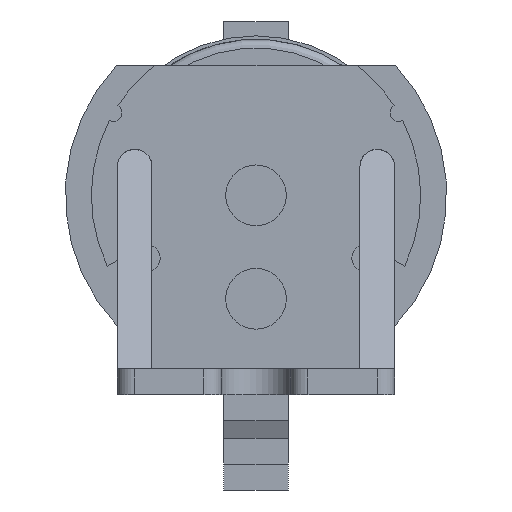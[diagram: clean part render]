
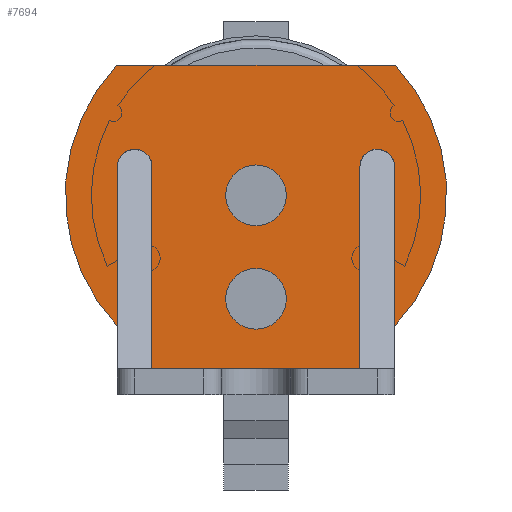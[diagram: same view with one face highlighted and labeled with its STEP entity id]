
A CAD part, left-side view. The second image highlights one B-rep face of the part: STEP entity #7694.
In plain terms, the highlighted planar face has unit normal (-1, 0, 0).
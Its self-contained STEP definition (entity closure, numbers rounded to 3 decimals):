
#5727=DIRECTION('',(0.,0.,-1.));
#5728=VECTOR('',#5727,9.211);
#5729=CARTESIAN_POINT('',(4.,8.,13.161));
#5730=LINE('',#5729,#5728);
#5739=DIRECTION('',(0.,1.,0.));
#5740=VECTOR('',#5739,12.);
#5741=CARTESIAN_POINT('',(4.,-6.,1.5));
#5742=LINE('',#5741,#5740);
#5792=CARTESIAN_POINT('',(4.,7.,13.161));
#5793=DIRECTION('',(1.,0.,0.));
#5794=DIRECTION('',(0.,1.,0.));
#5795=AXIS2_PLACEMENT_3D('',#5792,#5793,#5794);
#5797=DIRECTION('',(0.,1.,0.));
#5798=VECTOR('',#5797,16.093);
#5799=CARTESIAN_POINT('',(4.,-8.047,19.));
#5800=LINE('',#5799,#5798);
#5801=CARTESIAN_POINT('',(4.,0.,11.5));
#5802=DIRECTION('',(-1.,0.,0.));
#5803=DIRECTION('',(0.,-0.727,-0.686));
#5804=AXIS2_PLACEMENT_3D('',#5801,#5802,#5803);
#5806=DIRECTION('',(0.,0.,-1.));
#5807=VECTOR('',#5806,9.211);
#5808=CARTESIAN_POINT('',(4.,-8.,13.161));
#5809=LINE('',#5808,#5807);
#5810=CARTESIAN_POINT('',(4.,-7.,13.161));
#5811=DIRECTION('',(1.,0.,0.));
#5812=DIRECTION('',(0.,0.,1.));
#5813=AXIS2_PLACEMENT_3D('',#5810,#5811,#5812);
#5815=CARTESIAN_POINT('',(4.,-7.,13.161));
#5816=DIRECTION('',(1.,0.,0.));
#5817=DIRECTION('',(0.,1.,0.));
#5818=AXIS2_PLACEMENT_3D('',#5815,#5816,#5817);
#5820=DIRECTION('',(0.,0.,-1.));
#5821=VECTOR('',#5820,11.661);
#5822=CARTESIAN_POINT('',(4.,6.,13.161));
#5823=LINE('',#5822,#5821);
#5824=CARTESIAN_POINT('',(4.,7.,13.161));
#5825=DIRECTION('',(1.,0.,0.));
#5826=DIRECTION('',(0.,0.,1.));
#5827=AXIS2_PLACEMENT_3D('',#5824,#5825,#5826);
#5829=CARTESIAN_POINT('',(4.,0.,5.53));
#5830=DIRECTION('',(1.,0.,0.));
#5831=DIRECTION('',(0.,1.,0.));
#5832=AXIS2_PLACEMENT_3D('',#5829,#5830,#5831);
#5834=CARTESIAN_POINT('',(4.,0.,5.53));
#5835=DIRECTION('',(1.,0.,0.));
#5836=DIRECTION('',(0.,-1.,0.));
#5837=AXIS2_PLACEMENT_3D('',#5834,#5835,#5836);
#5839=CARTESIAN_POINT('',(4.,0.,11.5));
#5840=DIRECTION('',(1.,0.,0.));
#5841=DIRECTION('',(0.,1.,0.));
#5842=AXIS2_PLACEMENT_3D('',#5839,#5840,#5841);
#5844=CARTESIAN_POINT('',(4.,0.,11.5));
#5845=DIRECTION('',(1.,0.,0.));
#5846=DIRECTION('',(0.,-1.,0.));
#5847=AXIS2_PLACEMENT_3D('',#5844,#5845,#5846);
#5859=CARTESIAN_POINT('',(4.,7.,14.161));
#5878=CARTESIAN_POINT('',(4.,0.,11.5));
#5879=DIRECTION('',(-1.,0.,0.));
#5880=DIRECTION('',(0.,0.732,0.682));
#5881=AXIS2_PLACEMENT_3D('',#5878,#5879,#5880);
#6216=CARTESIAN_POINT('',(4.,-7.,14.161));
#6226=DIRECTION('',(0.,0.,-1.));
#6227=VECTOR('',#6226,11.661);
#6228=CARTESIAN_POINT('',(4.,-6.,13.161));
#6229=LINE('',#6228,#6227);
#7369=CARTESIAN_POINT('',(4.,1.75,5.53));
#7371=VERTEX_POINT('',#7369);
#7375=CARTESIAN_POINT('',(4.,-1.75,5.53));
#7376=VERTEX_POINT('',#7375);
#7377=CARTESIAN_POINT('',(4.,1.75,11.5));
#7379=VERTEX_POINT('',#7377);
#7383=CARTESIAN_POINT('',(4.,-1.75,11.5));
#7384=VERTEX_POINT('',#7383);
#7386=CARTESIAN_POINT('',(4.,8.,3.95));
#7388=VERTEX_POINT('',#7386);
#7398=VERTEX_POINT('',#5859);
#7399=CARTESIAN_POINT('',(4.,6.,13.161));
#7400=VERTEX_POINT('',#7399);
#7402=VERTEX_POINT('',#6216);
#7403=CARTESIAN_POINT('',(4.,-8.,13.161));
#7404=VERTEX_POINT('',#7403);
#7405=CARTESIAN_POINT('',(4.,8.,13.161));
#7406=VERTEX_POINT('',#7405);
#7407=CARTESIAN_POINT('',(4.,6.,1.5));
#7408=VERTEX_POINT('',#7407);
#7409=CARTESIAN_POINT('',(4.,-6.,1.5));
#7410=VERTEX_POINT('',#7409);
#7411=CARTESIAN_POINT('',(4.,-6.,13.161));
#7412=VERTEX_POINT('',#7411);
#7413=CARTESIAN_POINT('',(4.,-8.,3.95));
#7414=VERTEX_POINT('',#7413);
#7415=CARTESIAN_POINT('',(4.,-8.047,19.));
#7416=VERTEX_POINT('',#7415);
#7417=CARTESIAN_POINT('',(4.,8.047,19.));
#7418=VERTEX_POINT('',#7417);
#7655=CARTESIAN_POINT('',(4.,0.,11.5));
#7656=DIRECTION('',(-1.,0.,0.));
#7657=DIRECTION('',(0.,-1.,0.));
#7658=AXIS2_PLACEMENT_3D('',#7655,#7656,#7657);
#7659=PLANE('',#7658);
#7661=ORIENTED_EDGE('',*,*,#7660,.F.);
#7662=ORIENTED_EDGE('',*,*,#7579,.T.);
#7664=ORIENTED_EDGE('',*,*,#7663,.F.);
#7666=ORIENTED_EDGE('',*,*,#7665,.F.);
#7668=ORIENTED_EDGE('',*,*,#7667,.F.);
#7670=ORIENTED_EDGE('',*,*,#7669,.F.);
#7672=ORIENTED_EDGE('',*,*,#7671,.F.);
#7674=ORIENTED_EDGE('',*,*,#7673,.F.);
#7676=ORIENTED_EDGE('',*,*,#7675,.T.);
#7677=ORIENTED_EDGE('',*,*,#7595,.T.);
#7678=ORIENTED_EDGE('',*,*,#7634,.F.);
#7679=ORIENTED_EDGE('',*,*,#7647,.F.);
#7680=EDGE_LOOP('',(#7661,#7662,#7664,#7666,#7668,#7670,#7672,#7674,#7676,#7677,
#7678,#7679));
#7681=FACE_OUTER_BOUND('',#7680,.F.);
#7683=ORIENTED_EDGE('',*,*,#7682,.F.);
#7685=ORIENTED_EDGE('',*,*,#7684,.F.);
#7686=EDGE_LOOP('',(#7683,#7685));
#7687=FACE_BOUND('',#7686,.F.);
#7689=ORIENTED_EDGE('',*,*,#7688,.F.);
#7691=ORIENTED_EDGE('',*,*,#7690,.F.);
#7692=EDGE_LOOP('',(#7689,#7691));
#7693=FACE_BOUND('',#7692,.F.);
#7694=ADVANCED_FACE('',(#7681,#7687,#7693),#7659,.T.);
#5796=CIRCLE('',#5795,1.);
#5805=CIRCLE('',#5804,11.);
#5814=CIRCLE('',#5813,1.);
#5819=CIRCLE('',#5818,1.);
#5828=CIRCLE('',#5827,1.);
#5833=CIRCLE('',#5832,1.75);
#5838=CIRCLE('',#5837,1.75);
#5843=CIRCLE('',#5842,1.75);
#5848=CIRCLE('',#5847,1.75);
#5882=CIRCLE('',#5881,11.);
#7579=EDGE_CURVE('',#7406,#7388,#5730,.T.);
#7595=EDGE_CURVE('',#7410,#7408,#5742,.T.);
#7634=EDGE_CURVE('',#7400,#7408,#5823,.T.);
#7647=EDGE_CURVE('',#7398,#7400,#5828,.T.);
#7660=EDGE_CURVE('',#7406,#7398,#5796,.T.);
#7663=EDGE_CURVE('',#7418,#7388,#5882,.T.);
#7665=EDGE_CURVE('',#7416,#7418,#5800,.T.);
#7667=EDGE_CURVE('',#7414,#7416,#5805,.T.);
#7669=EDGE_CURVE('',#7404,#7414,#5809,.T.);
#7671=EDGE_CURVE('',#7402,#7404,#5814,.T.);
#7673=EDGE_CURVE('',#7412,#7402,#5819,.T.);
#7675=EDGE_CURVE('',#7412,#7410,#6229,.T.);
#7682=EDGE_CURVE('',#7371,#7376,#5833,.T.);
#7684=EDGE_CURVE('',#7376,#7371,#5838,.T.);
#7688=EDGE_CURVE('',#7379,#7384,#5843,.T.);
#7690=EDGE_CURVE('',#7384,#7379,#5848,.T.);
